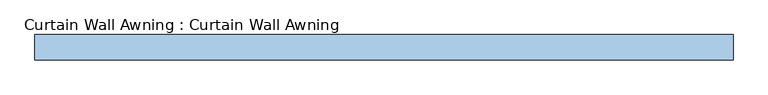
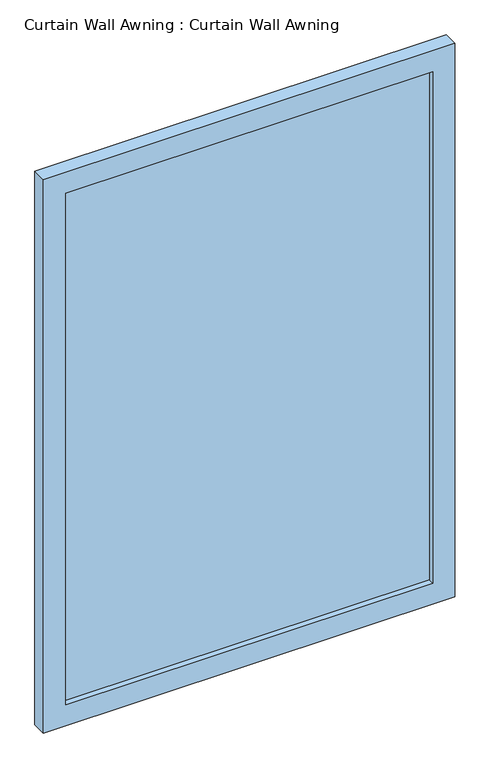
"""IFC4 building model written with IfcOpenShell, lengths in millimetres: window geometry, Curtain Wall Awning : Curtain Wall Awning."""

from ifc_helpers import new_model, si_unit, frame, origin, place, context, project, spatial, polyline, outline, extrude, source, transform, mapped, element, save


def curtain_wall_awning_curtain_wall_awning_7a743a13(model_context):
    return source(origin(), model_context, "Body", "SweptSolid", [
        extrude(outline(polyline([(626.8, -44.45), (626.8, -57.15), (-626.8, -57.15), (-626.8, -44.45), (626.8, -44.45)])), frame((0.0, 0.0, 76.2), z_axis=(0.0, 0.0, 1.0), x_axis=(1.0, 0.0, 0.0)), (0.0, 0.0, 1.0), 1847.6),
        extrude(outline(polyline([(2000.0, -703.0), (0.0, -703.0), (0.0, 703.0), (2000.0, 703.0), (2000.0, -703.0)]), holes=[polyline([(1923.8, -626.8), (1923.8, 626.8), (76.2, 626.8), (76.2, -626.8), (1923.8, -626.8)])]), frame((0.0, -76.2, 0.0), z_axis=(0.0, 1.0, 0.0), x_axis=(0.0, 0.0, 1.0)), (0.0, 0.0, 1.0), 50.8),
    ])


if __name__ == "__main__":
    model = new_model("IFC4")
    model_context = context("Model", 3, world=origin())
    ifc_project = project(units=[si_unit("LENGTHUNIT", "METRE", prefix="MILLI")], contexts=[model_context])
    site = spatial("IfcSite", under=ifc_project)
    building = spatial("IfcBuilding", under=site)
    placement = place(None, origin())
    curtain_wall_awning_curtain_wall_awning_shape = curtain_wall_awning_curtain_wall_awning_7a743a13(model_context)
    element("IfcWindow", 1, ObjectType="Curtain Wall Awning : Curtain Wall Awning", at=placement, inside=building, context=model_context, shape_type="MappedRepresentation", body=[
        mapped(curtain_wall_awning_curtain_wall_awning_shape, transform((0.0, 0.0, 0.0), x_axis=(1.0, 0.0, 0.0), y_axis=(0.0, 1.0, 0.0), z_axis=(0.0, 0.0, 1.0))),
    ])
    save(model, "model.ifc")
